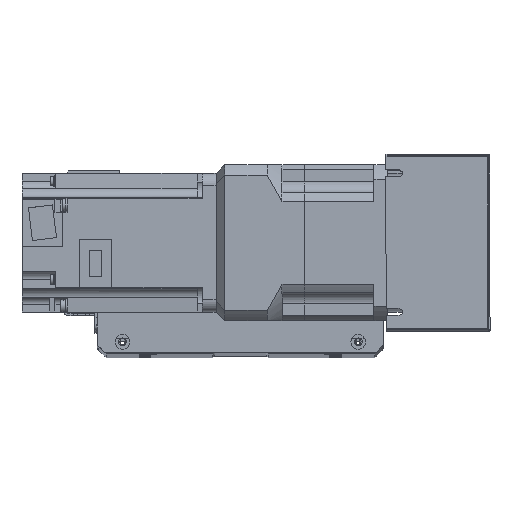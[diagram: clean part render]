
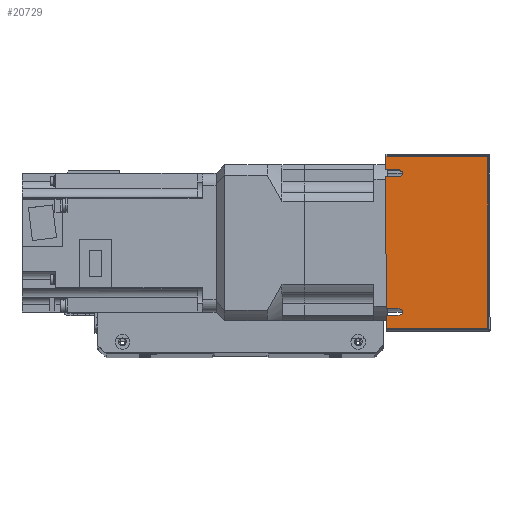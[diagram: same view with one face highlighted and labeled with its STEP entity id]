
A CAD part, top view. The second image highlights one B-rep face of the part: STEP entity #20729.
In plain terms, the highlighted planar face has unit normal (0, 0, 1) as drawn and (-1, 0, 0) by its records, which use the part's own axes.
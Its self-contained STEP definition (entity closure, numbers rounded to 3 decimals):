
#550=PLANE('',#22561);
#1638=LINE('',#32890,#3298);
#1644=LINE('',#32904,#3304);
#1656=LINE('',#32931,#3316);
#1666=LINE('',#32953,#3326);
#1674=LINE('',#32972,#3334);
#1675=LINE('',#32975,#3335);
#1676=LINE('',#32977,#3336);
#1677=LINE('',#32979,#3337);
#1678=LINE('',#32981,#3338);
#1679=LINE('',#32982,#3339);
#3298=VECTOR('',#26751,10.);
#3304=VECTOR('',#26761,10.);
#3316=VECTOR('',#26779,10.);
#3326=VECTOR('',#26793,10.);
#3334=VECTOR('',#26815,10.);
#3335=VECTOR('',#26818,10.);
#3336=VECTOR('',#26819,10.);
#3337=VECTOR('',#26820,10.);
#3338=VECTOR('',#26821,10.);
#3339=VECTOR('',#26822,10.);
#5336=FACE_OUTER_BOUND('',#6780,.T.);
#6780=EDGE_LOOP('',(#16132,#16133,#16134,#16135,#16136,#16137,#16138,#16139,
#16140,#16141,#16142,#16143));
#8214=CIRCLE('',#22557,2.);
#8217=CIRCLE('',#22562,2.);
#9647=VERTEX_POINT('',#32887);
#9648=VERTEX_POINT('',#32889);
#9653=VERTEX_POINT('',#32902);
#9654=VERTEX_POINT('',#32903);
#9665=VERTEX_POINT('',#32929);
#9666=VERTEX_POINT('',#32930);
#9675=VERTEX_POINT('',#32950);
#9676=VERTEX_POINT('',#32952);
#9681=VERTEX_POINT('',#32974);
#9682=VERTEX_POINT('',#32976);
#9683=VERTEX_POINT('',#32978);
#9684=VERTEX_POINT('',#32980);
#11995=EDGE_CURVE('',#9647,#9648,#1638,.T.);
#12001=EDGE_CURVE('',#9653,#9654,#1644,.T.);
#12013=EDGE_CURVE('',#9665,#9666,#1656,.T.);
#12023=EDGE_CURVE('',#9675,#9676,#1666,.T.);
#12026=EDGE_CURVE('',#9654,#9647,#8214,.T.);
#12035=EDGE_CURVE('',#9653,#9676,#1674,.T.);
#12036=EDGE_CURVE('',#9666,#9675,#8217,.T.);
#12037=EDGE_CURVE('',#9665,#9681,#1675,.T.);
#12038=EDGE_CURVE('',#9681,#9682,#1676,.T.);
#12039=EDGE_CURVE('',#9682,#9683,#1677,.T.);
#12040=EDGE_CURVE('',#9683,#9684,#1678,.T.);
#12041=EDGE_CURVE('',#9684,#9648,#1679,.T.);
#16132=ORIENTED_EDGE('',*,*,#11995,.F.);
#16133=ORIENTED_EDGE('',*,*,#12026,.F.);
#16134=ORIENTED_EDGE('',*,*,#12001,.F.);
#16135=ORIENTED_EDGE('',*,*,#12035,.T.);
#16136=ORIENTED_EDGE('',*,*,#12023,.F.);
#16137=ORIENTED_EDGE('',*,*,#12036,.F.);
#16138=ORIENTED_EDGE('',*,*,#12013,.F.);
#16139=ORIENTED_EDGE('',*,*,#12037,.T.);
#16140=ORIENTED_EDGE('',*,*,#12038,.T.);
#16141=ORIENTED_EDGE('',*,*,#12039,.T.);
#16142=ORIENTED_EDGE('',*,*,#12040,.T.);
#16143=ORIENTED_EDGE('',*,*,#12041,.T.);
#20729=ADVANCED_FACE('',(#5336),#550,.F.);
#22557=AXIS2_PLACEMENT_3D('',#32957,#26799,#26800);
#22561=AXIS2_PLACEMENT_3D('',#32971,#26813,#26814);
#22562=AXIS2_PLACEMENT_3D('',#32973,#26816,#26817);
#26751=DIRECTION('',(0.,0.,-1.));
#26761=DIRECTION('',(0.,0.,1.));
#26779=DIRECTION('',(0.,0.,1.));
#26793=DIRECTION('',(0.,0.,-1.));
#26799=DIRECTION('center_axis',(-1.,0.,0.));
#26800=DIRECTION('ref_axis',(0.,0.,1.));
#26813=DIRECTION('center_axis',(1.,0.,0.));
#26814=DIRECTION('ref_axis',(0.,-1.,0.));
#26815=DIRECTION('',(0.,-1.,0.));
#26816=DIRECTION('center_axis',(-1.,0.,0.));
#26817=DIRECTION('ref_axis',(0.,0.,1.));
#26818=DIRECTION('',(0.,-1.,0.));
#26819=DIRECTION('',(0.,0.,1.));
#26820=DIRECTION('',(0.,1.,0.));
#26821=DIRECTION('',(0.,0.,-1.));
#26822=DIRECTION('',(0.,-1.,0.));
#32887=CARTESIAN_POINT('',(-120.5,42.,-22.5));
#32889=CARTESIAN_POINT('',(-120.5,42.,-30.));
#32890=CARTESIAN_POINT('',(-120.5,42.,-16.304));
#32902=CARTESIAN_POINT('',(-120.5,38.,-30.));
#32903=CARTESIAN_POINT('',(-120.5,38.,-22.5));
#32904=CARTESIAN_POINT('',(-120.5,38.,-11.25));
#32929=CARTESIAN_POINT('',(-120.5,-42.,-30.));
#32930=CARTESIAN_POINT('',(-120.5,-42.,-22.5));
#32931=CARTESIAN_POINT('',(-120.5,-42.,-11.25));
#32950=CARTESIAN_POINT('',(-120.5,-38.,-22.5));
#32952=CARTESIAN_POINT('',(-120.5,-38.,-30.));
#32953=CARTESIAN_POINT('',(-120.5,-38.,-16.169));
#32957=CARTESIAN_POINT('Origin',(-120.5,40.,-22.5));
#32971=CARTESIAN_POINT('Origin',(-120.5,51.,0.));
#32972=CARTESIAN_POINT('',(-120.5,-51.,-30.));
#32973=CARTESIAN_POINT('Origin',(-120.5,-40.,-22.5));
#32974=CARTESIAN_POINT('',(-120.5,-50.,-30.));
#32975=CARTESIAN_POINT('',(-120.5,-51.,-30.));
#32976=CARTESIAN_POINT('',(-120.5,-50.,29.));
#32977=CARTESIAN_POINT('',(-120.5,-50.,0.));
#32978=CARTESIAN_POINT('',(-120.5,50.,29.));
#32979=CARTESIAN_POINT('',(-120.5,25.5,29.));
#32980=CARTESIAN_POINT('',(-120.5,50.,-30.));
#32981=CARTESIAN_POINT('',(-120.5,50.,0.));
#32982=CARTESIAN_POINT('',(-120.5,-51.,-30.));
